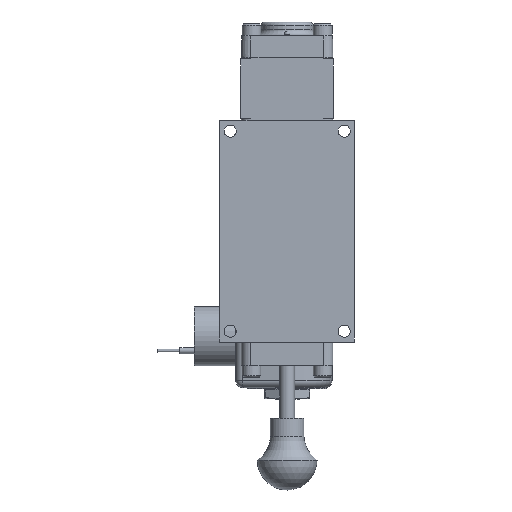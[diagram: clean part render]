
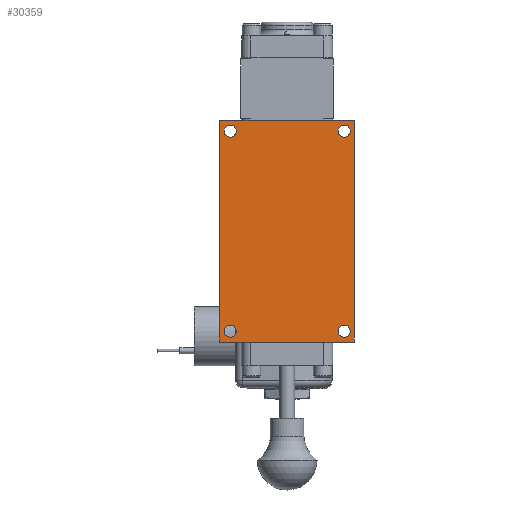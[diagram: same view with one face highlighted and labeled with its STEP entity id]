
A CAD part, front view. The second image highlights one B-rep face of the part: STEP entity #30359.
In plain terms, the highlighted planar face has unit normal (0, -1, 0).
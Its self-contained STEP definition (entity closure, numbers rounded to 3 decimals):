
#1158=FACE_BOUND('',#9146,.T.);
#1159=FACE_BOUND('',#9147,.T.);
#1160=FACE_BOUND('',#9148,.T.);
#1161=FACE_BOUND('',#9149,.T.);
#1979=LINE('',#47042,#4140);
#2317=LINE('',#48167,#4478);
#2529=LINE('',#49187,#4690);
#2771=LINE('',#50607,#4932);
#4140=VECTOR('',#36115,1.);
#4478=VECTOR('',#37195,1.);
#4690=VECTOR('',#37577,1.);
#4932=VECTOR('',#37969,1.);
#7235=FACE_OUTER_BOUND('',#9145,.T.);
#9145=EDGE_LOOP('',(#22854,#22855,#22856,#22857));
#9146=EDGE_LOOP('',(#22858));
#9147=EDGE_LOOP('',(#22859));
#9148=EDGE_LOOP('',(#22860));
#9149=EDGE_LOOP('',(#22861));
#10741=CIRCLE('',#32704,0.258);
#10742=CIRCLE('',#32706,0.258);
#10743=CIRCLE('',#32708,0.258);
#10744=CIRCLE('',#32710,0.258);
#12063=VERTEX_POINT('',#47039);
#12064=VERTEX_POINT('',#47041);
#12395=VERTEX_POINT('',#48164);
#12396=VERTEX_POINT('',#48166);
#12924=VERTEX_POINT('',#51521);
#12925=VERTEX_POINT('',#51525);
#12926=VERTEX_POINT('',#51529);
#12927=VERTEX_POINT('',#51533);
#15088=EDGE_CURVE('',#12063,#12064,#1979,.T.);
#15599=EDGE_CURVE('',#12395,#12396,#2317,.T.);
#15875=EDGE_CURVE('',#12064,#12395,#2529,.T.);
#16211=EDGE_CURVE('',#12396,#12063,#2771,.T.);
#16400=EDGE_CURVE('',#12924,#12924,#10741,.T.);
#16402=EDGE_CURVE('',#12925,#12925,#10742,.T.);
#16404=EDGE_CURVE('',#12926,#12926,#10743,.T.);
#16406=EDGE_CURVE('',#12927,#12927,#10744,.T.);
#22854=ORIENTED_EDGE('',*,*,#15875,.F.);
#22855=ORIENTED_EDGE('',*,*,#15088,.F.);
#22856=ORIENTED_EDGE('',*,*,#16211,.F.);
#22857=ORIENTED_EDGE('',*,*,#15599,.F.);
#22858=ORIENTED_EDGE('',*,*,#16400,.T.);
#22859=ORIENTED_EDGE('',*,*,#16402,.T.);
#22860=ORIENTED_EDGE('',*,*,#16404,.T.);
#22861=ORIENTED_EDGE('',*,*,#16406,.T.);
#27305=PLANE('',#32736);
#30359=ADVANCED_FACE('',(#7235,#1158,#1159,#1160,#1161),#27305,.F.);
#32704=AXIS2_PLACEMENT_3D('',#51523,#38358,#38359);
#32706=AXIS2_PLACEMENT_3D('',#51527,#38363,#38364);
#32708=AXIS2_PLACEMENT_3D('',#51531,#38368,#38369);
#32710=AXIS2_PLACEMENT_3D('',#51535,#38373,#38374);
#32736=AXIS2_PLACEMENT_3D('',#51586,#38440,#38441);
#36115=DIRECTION('',(-1.,0.,0.));
#37195=DIRECTION('',(1.,0.,0.));
#37577=DIRECTION('',(0.,0.,1.));
#37969=DIRECTION('',(0.,0.,-1.));
#38358=DIRECTION('center_axis',(0.,1.,0.));
#38359=DIRECTION('ref_axis',(-1.,0.,0.));
#38363=DIRECTION('center_axis',(0.,1.,0.));
#38364=DIRECTION('ref_axis',(-1.,0.,0.));
#38368=DIRECTION('center_axis',(0.,1.,0.));
#38369=DIRECTION('ref_axis',(-1.,0.,0.));
#38373=DIRECTION('center_axis',(0.,1.,0.));
#38374=DIRECTION('ref_axis',(-1.,0.,0.));
#38440=DIRECTION('center_axis',(0.,1.,0.));
#38441=DIRECTION('ref_axis',(0.,0.,1.));
#47039=CARTESIAN_POINT('',(2.858,-1.636,-4.71));
#47041=CARTESIAN_POINT('',(-2.858,-1.636,-4.71));
#47042=CARTESIAN_POINT('',(2.858,-1.636,-4.71));
#48164=CARTESIAN_POINT('',(-2.858,-1.636,4.71));
#48166=CARTESIAN_POINT('',(2.858,-1.636,4.71));
#48167=CARTESIAN_POINT('',(-2.858,-1.636,4.71));
#49187=CARTESIAN_POINT('',(-2.858,-1.636,-4.71));
#50607=CARTESIAN_POINT('',(2.858,-1.636,4.71));
#51521=CARTESIAN_POINT('',(-2.163,-1.636,-4.247));
#51523=CARTESIAN_POINT('Origin',(-2.421,-1.636,-4.247));
#51525=CARTESIAN_POINT('',(-2.163,-1.636,4.247));
#51527=CARTESIAN_POINT('Origin',(-2.421,-1.636,4.247));
#51529=CARTESIAN_POINT('',(2.678,-1.636,-4.247));
#51531=CARTESIAN_POINT('Origin',(2.421,-1.636,-4.247));
#51533=CARTESIAN_POINT('',(2.678,-1.636,4.247));
#51535=CARTESIAN_POINT('Origin',(2.421,-1.636,4.247));
#51586=CARTESIAN_POINT('Origin',(0.,-1.636,0.));
